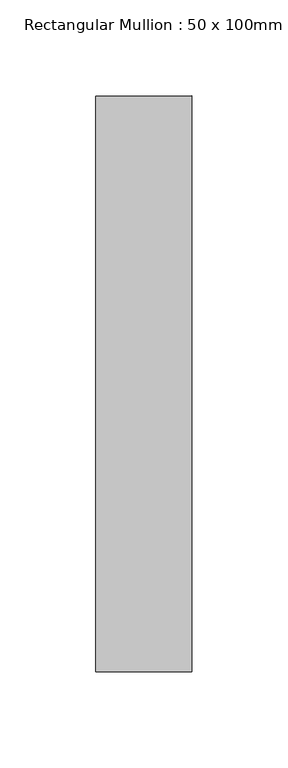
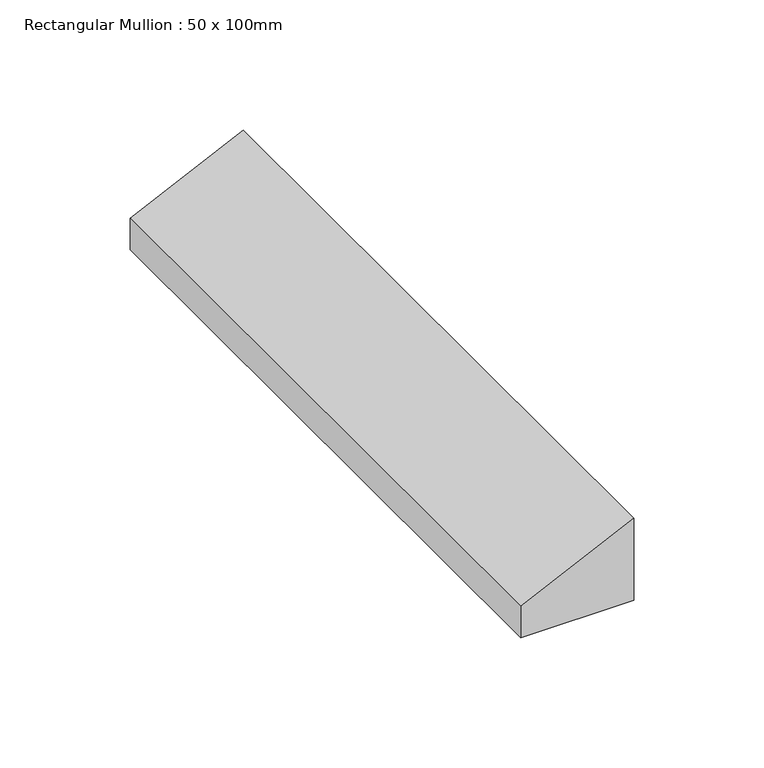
"""IFC4 building model written with IfcOpenShell, lengths in millimetres: member geometry, Rectangular Mullion : 50 x 100mm."""

import ifcopenshell
import ifcopenshell.guid

model = None  # the IFC model being written
_history = None  # IfcOwnerHistory: only IFC2X3 demands one
_inside = {}  # id of a spatial element -> (the spatial element, [elements in it])
_under = {}  # id of a project, library or spatial element -> (it, [spatial elements below it])
_declared = {}  # id of a project -> (the project, [libraries it declares])
_typed = {}  # id of a type object -> (the type object, [elements of that type])
_made_of = {}  # id of a material, layer set ... -> (it, [elements and type objects made of it])


def new_model(schema):
    """Start an empty IFC model of exactly this schema.

    Asked for "IFC4X3", IfcOpenShell would pick the latest addendum, in which some entities
    have other attributes; the version numbers below select the first issue.
    IFC2X3 requires an IfcOwnerHistory on every rooted entity: one is made here for all.
    """
    global model, _history
    if schema == "IFC4X3":
        model = ifcopenshell.file(schema_version=(4, 3, 0, 0))
    else:
        model = ifcopenshell.file(schema=schema)
    _inside.clear()
    _under.clear()
    _declared.clear()
    _typed.clear()
    _made_of.clear()
    _history = None
    if model.schema == "IFC2X3":
        org = make("IfcOrganization", Name="unknown")
        user = make(
            "IfcPersonAndOrganization",
            ThePerson=make("IfcPerson", FamilyName="unknown"),
            TheOrganization=org,
        )
        app = make(
            "IfcApplication",
            ApplicationDeveloper=org,
            Version="unknown",
            ApplicationFullName="unknown",
            ApplicationIdentifier="unknown",
        )
        _history = make(
            "IfcOwnerHistory",
            OwningUser=user,
            OwningApplication=app,
            ChangeAction="ADDED",
            CreationDate=0,
        )
    return model


def make(cls, **values):
    """One entity of the class cls with the attributes given. An attribute that is None is left unset."""
    return model.create_entity(
        cls, **{name: value for name, value in values.items() if value is not None}
    )


def rooted(cls, **values):
    """An entity with a GlobalId (a new one), such as an element, a storey or a relation."""
    return make(cls, GlobalId=ifcopenshell.guid.new(), OwnerHistory=_history, **values)


def si_unit(unit_type, name, prefix=None):
    """IfcSIUnit, for example si_unit("LENGTHUNIT", "METRE", prefix="MILLI")."""
    return make("IfcSIUnit", UnitType=unit_type, Prefix=prefix, Name=name)


def assignment(units):
    """IfcUnitAssignment: the units of a project."""
    return None if units is None else make("IfcUnitAssignment", Units=units)


def point(xyz):
    """IfcCartesianPoint."""
    return None if xyz is None else make("IfcCartesianPoint", Coordinates=xyz)


def direction(xyz):
    """IfcDirection."""
    return None if xyz is None else make("IfcDirection", DirectionRatios=xyz)


def frame(location, z_axis=None, x_axis=None):
    """IfcAxis2Placement3D, a coordinate frame: its origin and axes. An axis left out is left unset."""
    return make(
        "IfcAxis2Placement3D",
        Location=point(location),
        Axis=direction(z_axis),
        RefDirection=direction(x_axis),
    )


def origin():
    """The frame at (0, 0, 0) with its axes left unset."""
    return frame((0.0, 0.0, 0.0))


def place(relative_to, where):
    """IfcLocalPlacement: puts the frame where relative to a parent placement (None: the world)."""
    return make(
        "IfcLocalPlacement", PlacementRelTo=relative_to, RelativePlacement=where
    )


def context(
    kind, dimensions, precision=None, world=None, true_north=None, identifier=None
):
    """IfcGeometricRepresentationContext, for example the 3D "Model" context."""
    return make(
        "IfcGeometricRepresentationContext",
        ContextIdentifier=identifier,
        ContextType=kind,
        CoordinateSpaceDimension=dimensions,
        Precision=precision,
        WorldCoordinateSystem=world,
        TrueNorth=true_north,
    )


def project(units=None, contexts=None):
    """IfcProject with its units and contexts."""
    return rooted(
        "IfcProject",
        Name="project",
        RepresentationContexts=contexts,
        UnitsInContext=assignment(units),
    )


def spatial(cls, under=None, at=None, **own):
    """A site, building, storey or space (cls), placed at a placement, below another one or the project."""
    s = rooted(cls, ObjectPlacement=at, **own)
    if under is not None:
        _under.setdefault(under.id(), (under, []))[1].append(s)
    return s


def polyline(points):
    """IfcPolyline through the points."""
    return make("IfcPolyline", Points=[point(p) for p in points])


def outline(outer, holes=None, kind="AREA"):
    """IfcArbitraryClosedProfileDef: a profile drawn as a closed curve; with holes, ...WithVoids."""
    if holes is None:
        return make("IfcArbitraryClosedProfileDef", ProfileType=kind, OuterCurve=outer)
    return make(
        "IfcArbitraryProfileDefWithVoids",
        ProfileType=kind,
        OuterCurve=outer,
        InnerCurves=holes,
    )


def extrude(swept, where, along, depth):
    """IfcExtrudedAreaSolid: the profile swept, set in the frame where, extruded along a direction by depth."""
    return make(
        "IfcExtrudedAreaSolid",
        SweptArea=swept,
        Position=where,
        ExtrudedDirection=direction(along),
        Depth=depth,
    )


def shape(context_of_items, identifier, shape_type, items):
    """IfcShapeRepresentation: the items that make up one representation, for example the "Body"."""
    return make(
        "IfcShapeRepresentation",
        ContextOfItems=context_of_items,
        RepresentationIdentifier=identifier,
        RepresentationType=shape_type,
        Items=items,
    )


def source(mapping_origin, context_of_items, identifier, shape_type, items):
    """IfcRepresentationMap: a shape defined once, which mapped items show again and again."""
    return make(
        "IfcRepresentationMap",
        MappingOrigin=mapping_origin,
        MappedRepresentation=shape(context_of_items, identifier, shape_type, items),
    )


def transform(
    local_origin,
    x_axis=None,
    y_axis=None,
    z_axis=None,
    scale=None,
    scale2=None,
    scale3=None,
    uniform=True,
):
    """IfcCartesianTransformationOperator3D, or its non-uniform kind. x_axis, y_axis, z_axis: its Axis1, 2, 3."""
    if uniform:
        return make(
            "IfcCartesianTransformationOperator3D",
            Axis1=direction(x_axis),
            Axis2=direction(y_axis),
            LocalOrigin=point(local_origin),
            Scale=scale,
            Axis3=direction(z_axis),
        )
    return make(
        "IfcCartesianTransformationOperator3DnonUniform",
        Axis1=direction(x_axis),
        Axis2=direction(y_axis),
        LocalOrigin=point(local_origin),
        Scale=scale,
        Axis3=direction(z_axis),
        Scale2=scale2,
        Scale3=scale3,
    )


def mapped(mapping_source, mapping_target):
    """IfcMappedItem: shows the shape of a source again, moved by a transform."""
    return make(
        "IfcMappedItem", MappingSource=mapping_source, MappingTarget=mapping_target
    )


def made_of(thing, what):
    """Note that an element or type object is made of a material, layer set ...; save() writes the relation."""
    if what is not None:
        _made_of.setdefault(what.id(), (what, []))[1].append(thing)
    return thing


def element(
    cls,
    number,
    at=None,
    inside=None,
    cuts=None,
    type_object=None,
    material=None,
    context=None,
    identifier="Body",
    shape_type=None,
    held_by="IfcProductDefinitionShape",
    body=None,
    shapes=None,
    **own,
):
    """One element of the class cls, such as IfcWall. Its Tag is "e" and its number.

    at: its placement. inside: the storey or other place that contains it. cuts: it is an
    opening in that element (IfcRelVoidsElement). A single representation is given by context,
    identifier, shape_type and body (its items); several are given by shapes. held_by: the class
    of the entity that holds the representations. save() writes the other relations.
    """
    e = rooted(cls, Tag="e%d" % number, ObjectPlacement=at, **own)
    if body is not None:
        shapes = [shape(context, identifier, shape_type, body)]
    if shapes is not None:
        e.Representation = make(held_by, Representations=shapes)
    if inside is not None:
        _inside.setdefault(inside.id(), (inside, []))[1].append(e)
    if cuts is not None:
        rooted(
            "IfcRelVoidsElement", RelatingBuildingElement=cuts, RelatedOpeningElement=e
        )
    if type_object is not None:
        _typed.setdefault(type_object.id(), (type_object, []))[1].append(e)
    return made_of(e, material)


def aggregate(whole, parts):
    """IfcRelAggregates: a whole, such as a stair, and the parts it consists of."""
    return rooted("IfcRelAggregates", RelatingObject=whole, RelatedObjects=parts)


def save(model, path):
    """Write the relations noted so far, then the file.

    IfcRelAggregates (storeys below a building ...), IfcRelContainedInSpatialStructure (elements
    in a storey), IfcRelDefinesByType, IfcRelAssociatesMaterial and IfcRelDeclares: one each for
    every whole, place, type object, material and project.
    """
    for whole, parts in _under.values():
        aggregate(whole, parts)
    for where, things in _inside.values():
        rooted(
            "IfcRelContainedInSpatialStructure",
            RelatedElements=things,
            RelatingStructure=where,
        )
    for kind, things in _typed.values():
        rooted("IfcRelDefinesByType", RelatedObjects=things, RelatingType=kind)
    for what, things in _made_of.values():
        rooted("IfcRelAssociatesMaterial", RelatedObjects=things, RelatingMaterial=what)
    for by, libraries in _declared.values():
        rooted("IfcRelDeclares", RelatingContext=by, RelatedDefinitions=libraries)
    model.write(path)


def rectangular_mullion_50_x_100mm_4085f734(model_context):
    return source(origin(), model_context, "Body", "SweptSolid", [
        extrude(outline(polyline([(0.0, 0.0), (-23.6761752, -50.0), (-38.4690769, -50.0), (-38.4690769, 0.0), (0.0, 0.0)])), frame((0.0, -125.0, 0.0), z_axis=(0.0, 1.0, 0.0), x_axis=(0.0, 0.0, 1.0)), (0.0, 0.0, 1.0), 300.0),
    ])


if __name__ == "__main__":
    model = new_model("IFC4")
    model_context = context("Model", 3, world=origin())
    ifc_project = project(units=[si_unit("LENGTHUNIT", "METRE", prefix="MILLI")], contexts=[model_context])
    site = spatial("IfcSite", under=ifc_project)
    building = spatial("IfcBuilding", under=site)
    placement = place(None, origin())
    rectangular_mullion_50_x_100mm_shape = rectangular_mullion_50_x_100mm_4085f734(model_context)
    element("IfcMember", 1, ObjectType="Rectangular Mullion : 50 x 100mm", at=placement, inside=building, context=model_context, shape_type="MappedRepresentation", body=[
        mapped(rectangular_mullion_50_x_100mm_shape, transform((0.0, 0.0, 0.0), x_axis=(1.0, 0.0, 0.0), y_axis=(0.0, 1.0, 0.0), z_axis=(0.0, 0.0, 1.0))),
    ])
    save(model, "model.ifc")
